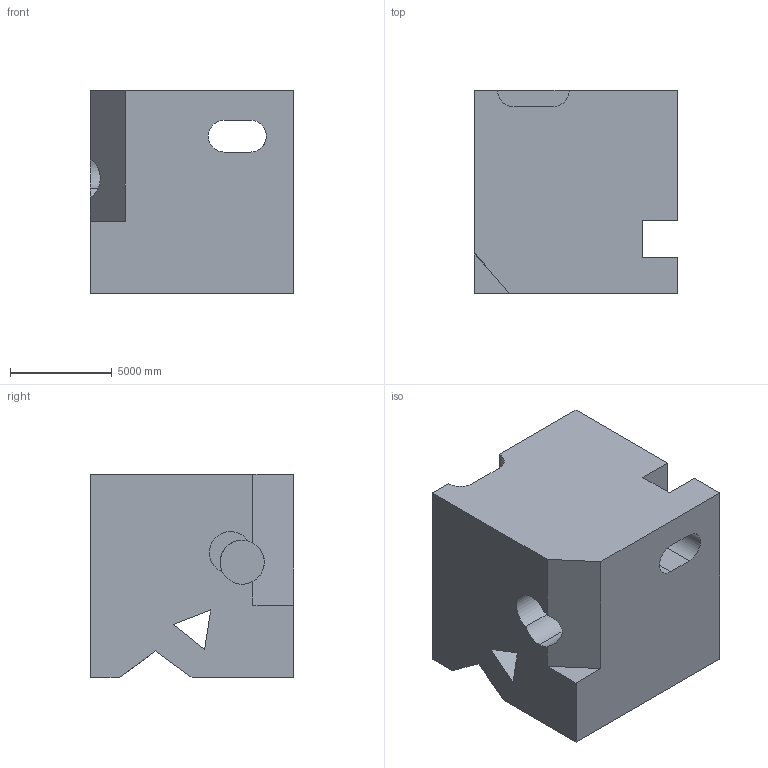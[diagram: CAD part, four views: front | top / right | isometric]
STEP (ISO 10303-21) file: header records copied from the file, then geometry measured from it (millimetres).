
FILE_DESCRIPTION (( 'STEP AP203' ), '1' );
FILE_NAME ('189.STEP', '2022-08-31T12:19:03', ( 'user' ), ( '' ), 'SwSTEP 2.0', 'SolidWorks 2021', '' );
FILE_SCHEMA (( 'CONFIG_CONTROL_DESIGN' ));
Length unit declared in the file: centimetre
Products named in the file (1): 189
Bounding box: 10000 x 10000 x 10000 mm (x, y, z)
Volume: 837527444553.7 mm3; surface area: 786972090.8 mm2
Topology: 1 solids, 1 shells, 41 faces, 120 edges, 80 vertices
Faces by surface type: plane 30, cylinder 11
Entity records: 1545 total; most frequent: CARTESIAN_POINT 345, ORIENTED_EDGE 240, DIRECTION 228, EDGE_CURVE 120, LINE 90, VECTOR 90, VERTEX_POINT 80, AXIS2_PLACEMENT_3D 69
